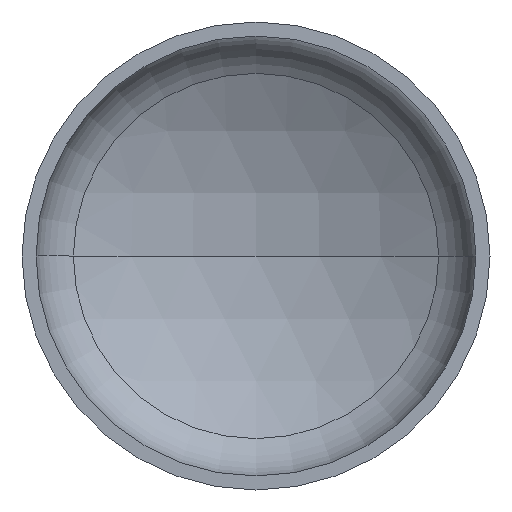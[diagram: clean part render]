
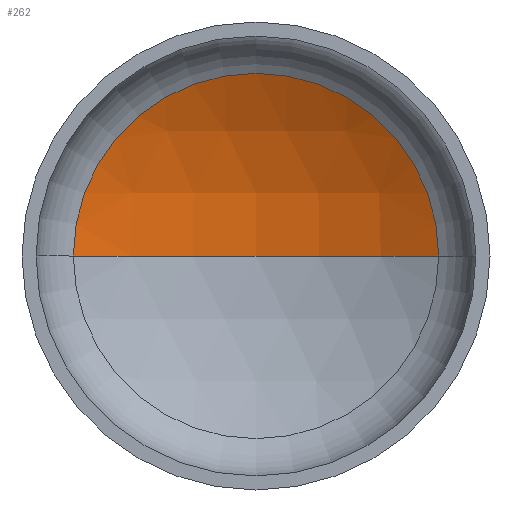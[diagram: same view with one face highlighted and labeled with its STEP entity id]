
A CAD part, front view. The second image highlights one B-rep face of the part: STEP entity #262.
In plain terms, the highlighted spherical face has radius 720 mm.
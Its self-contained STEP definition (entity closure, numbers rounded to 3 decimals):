
#3 = AXIS2_PLACEMENT_3D ( 'NONE', #231, #375, #100 ) ;
#12 = ORIENTED_EDGE ( 'NONE', *, *, #57, .F. ) ;
#14 = VERTEX_POINT ( 'NONE', #266 ) ;
#17 = AXIS2_PLACEMENT_3D ( 'NONE', #318, #160, #347 ) ;
#18 = AXIS2_PLACEMENT_3D ( 'NONE', #42, #271, #91 ) ;
#20 = AXIS2_PLACEMENT_3D ( 'NONE', #197, #369, #226 ) ;
#23 = VERTEX_POINT ( 'NONE', #391 ) ;
#42 = CARTESIAN_POINT ( 'NONE',  ( 0., -421.272, 0. ) ) ;
#53 = EDGE_CURVE ( 'NONE', #23, #175, #79, .T. ) ;
#55 = EDGE_CURVE ( 'NONE', #14, #23, #371, .T. ) ;
#57 = EDGE_CURVE ( 'NONE', #14, #175, #241, .T. ) ;
#79 = CIRCLE ( 'NONE', #20, 351.31 ) ;
#91 = DIRECTION ( 'NONE',  ( -1., 0., 0. ) ) ;
#100 = DIRECTION ( 'NONE',  ( -1., 0., 0. ) ) ;
#154 = ORIENTED_EDGE ( 'NONE', *, *, #53, .T. ) ;
#160 = DIRECTION ( 'NONE',  ( 0., 0., 1. ) ) ;
#175 = VERTEX_POINT ( 'NONE', #374 ) ;
#197 = CARTESIAN_POINT ( 'NONE',  ( 0., 207.204, 0. ) ) ;
#214 = EDGE_LOOP ( 'NONE', ( #12, #264, #154 ) ) ;
#226 = DIRECTION ( 'NONE',  ( 1., 0., 0. ) ) ;
#231 = CARTESIAN_POINT ( 'NONE',  ( 0., -421.272, 0. ) ) ;
#241 = CIRCLE ( 'NONE', #17, 720. ) ;
#262 = ADVANCED_FACE ( 'NONE', ( #408 ), #284, .F. ) ;
#264 = ORIENTED_EDGE ( 'NONE', *, *, #55, .T. ) ;
#266 = CARTESIAN_POINT ( 'NONE',  ( 0., 298.728, 0. ) ) ;
#271 = DIRECTION ( 'NONE',  ( 0., 0., -1. ) ) ;
#284 = SPHERICAL_SURFACE ( 'NONE', #3, 720. ) ;
#318 = CARTESIAN_POINT ( 'NONE',  ( 0., -421.272, 0. ) ) ;
#347 = DIRECTION ( 'NONE',  ( 1., 0., 0. ) ) ;
#369 = DIRECTION ( 'NONE',  ( 0., -1., 0. ) ) ;
#371 = CIRCLE ( 'NONE', #18, 720. ) ;
#374 = CARTESIAN_POINT ( 'NONE',  ( -351.31, 207.204, 0. ) ) ;
#375 = DIRECTION ( 'NONE',  ( 0., 0., -1. ) ) ;
#391 = CARTESIAN_POINT ( 'NONE',  ( 351.31, 207.204, 0. ) ) ;
#408 = FACE_OUTER_BOUND ( 'NONE', #214, .T. ) ;
